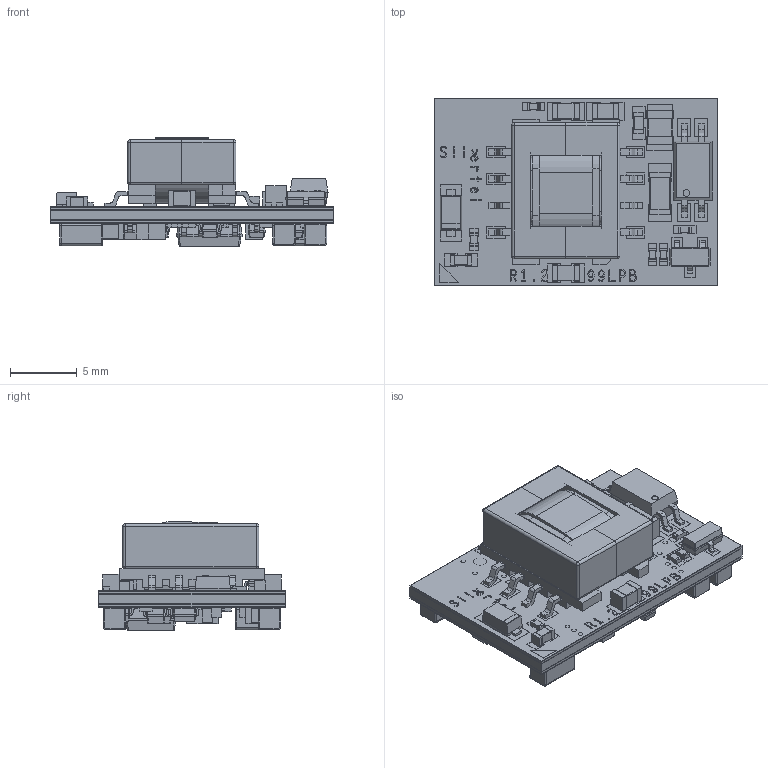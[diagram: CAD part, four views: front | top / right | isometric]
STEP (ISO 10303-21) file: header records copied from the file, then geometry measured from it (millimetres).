
FILE_DESCRIPTION(('FreeCAD Model'),'2;1');
FILE_NAME('Open CASCADE Shape Model','2024-11-04T11:54:54',(''),(''), 'Open CASCADE STEP processor 7.6','FreeCAD','Unknown');
FILE_SCHEMA(('AUTOMOTIVE_DESIGN { 1 0 10303 214 1 1 1 1 }'));
Products named in the file (1): Ag9900LPB_Detailed
Bounding box: 21.21 x 13.92 x 8.15 mm (x, y, z)
Surface area: 4351.8 mm2 (no closed solid volume)
Topology: 0 solids, 3394 shells, 3394 faces, 18170 edges, 18162 vertices
Faces by surface type: extrusion 2109, revolution 1027, bspline 258
Entity records: 221626 total; most frequent: CARTESIAN_POINT 42228, DIRECTION 27866, VECTOR 18749, ORIENTED_EDGE 18162, EDGE_CURVE 18162, VERTEX_POINT 18162, LINE 16640, AXIS2_PLACEMENT_3D 4045
